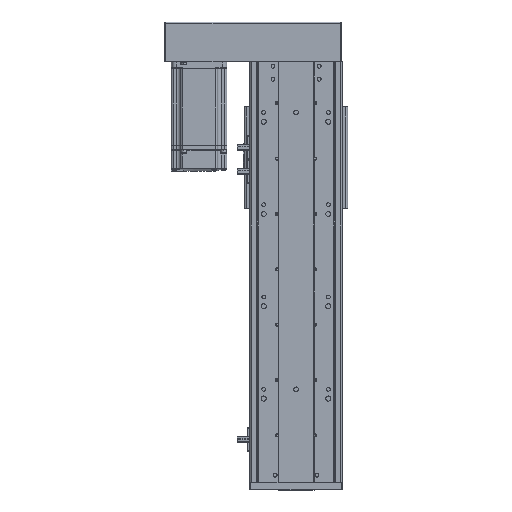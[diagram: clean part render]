
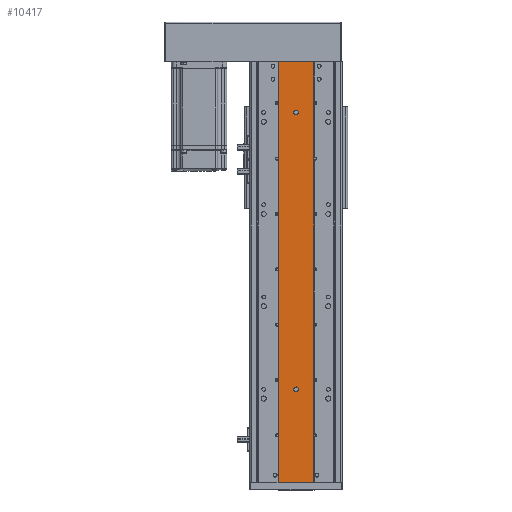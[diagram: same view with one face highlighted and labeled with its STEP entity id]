
A CAD part, top view. The second image highlights one B-rep face of the part: STEP entity #10417.
In plain terms, the highlighted planar face has unit normal (0, 0, 1).
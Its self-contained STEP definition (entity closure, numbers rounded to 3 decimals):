
#10417 = ADVANCED_FACE ( 'NONE', ( #44910, #44920, #44925 ), #12661, .F. ) ;
#11452 = VERTEX_POINT ( 'NONE', #13093 ) ;
#11509 = VERTEX_POINT ( 'NONE', #13150 ) ;
#11513 = VERTEX_POINT ( 'NONE', #13134 ) ;
#11514 = VERTEX_POINT ( 'NONE', #13155 ) ;
#11819 = VERTEX_POINT ( 'NONE', #46957 ) ;
#11859 = VERTEX_POINT ( 'NONE', #47028 ) ;
#11869 = VERTEX_POINT ( 'NONE', #46972 ) ;
#11882 = VERTEX_POINT ( 'NONE', #47012 ) ;
#12661 = PLANE ( 'NONE',  #28488 ) ;
#12663 = DIRECTION ( 'NONE',  ( -1., 0., 0. ) ) ;
#12665 = DIRECTION ( 'NONE',  ( 0., 0., -1. ) ) ;
#12673 = CARTESIAN_POINT ( 'NONE',  ( -10645.079, 456., -17040.86 ) ) ;
#13093 = CARTESIAN_POINT ( 'NONE',  ( -10628.579, 401., -17040.86 ) ) ;
#13134 = CARTESIAN_POINT ( 'NONE',  ( -10623.579, 401., -17040.86 ) ) ;
#13150 = CARTESIAN_POINT ( 'NONE',  ( -10628.579, 101., -17040.86 ) ) ;
#13155 = CARTESIAN_POINT ( 'NONE',  ( -10623.579, 101., -17040.86 ) ) ;
#15100 = DIRECTION ( 'NONE',  ( -1., 0., 0. ) ) ;
#15133 = DIRECTION ( 'NONE',  ( 0., 0., -1. ) ) ;
#15139 = CARTESIAN_POINT ( 'NONE',  ( -10626.079, 401., -17040.86 ) ) ;
#15159 = CARTESIAN_POINT ( 'NONE',  ( -10626.079, 101., -17040.86 ) ) ;
#15191 = DIRECTION ( 'NONE',  ( 0., 0., -1. ) ) ;
#15218 = DIRECTION ( 'NONE',  ( -1., 0., 0. ) ) ;
#15745 = EDGE_CURVE ( 'NONE', #11513, #11452, #35546, .T. ) ;
#15789 = EDGE_CURVE ( 'NONE', #11514, #11509, #35559, .T. ) ;
#16512 = EDGE_CURVE ( 'NONE', #11509, #11514, #17850, .T. ) ;
#16636 = EDGE_CURVE ( 'NONE', #11882, #11819, #18055, .T. ) ;
#16676 = EDGE_CURVE ( 'NONE', #11819, #11869, #18241, .T. ) ;
#16679 = EDGE_CURVE ( 'NONE', #11859, #11869, #18235, .T. ) ;
#16685 = EDGE_CURVE ( 'NONE', #11882, #11859, #18169, .T. ) ;
#16693 = EDGE_CURVE ( 'NONE', #11452, #11513, #18213, .T. ) ;
#17850 = CIRCLE ( 'NONE', #29509, 2.5 ) ;
#18055 = LINE ( 'NONE', #19830, #18100 ) ;
#18100 = VECTOR ( 'NONE', #19848, 1000. ) ;
#18169 = LINE ( 'NONE', #19898, #18184 ) ;
#18182 = VECTOR ( 'NONE', #19925, 1000. ) ;
#18184 = VECTOR ( 'NONE', #19889, 1000. ) ;
#18213 = CIRCLE ( 'NONE', #29504, 2.5 ) ;
#18235 = LINE ( 'NONE', #19921, #18182 ) ;
#18241 = LINE ( 'NONE', #19892, #18248 ) ;
#18248 = VECTOR ( 'NONE', #19897, 1000. ) ;
#19700 = CARTESIAN_POINT ( 'NONE',  ( -10626.079, 101., -17040.86 ) ) ;
#19704 = DIRECTION ( 'NONE',  ( -1., 0., 0. ) ) ;
#19716 = DIRECTION ( 'NONE',  ( 0., 0., -1. ) ) ;
#19830 = CARTESIAN_POINT ( 'NONE',  ( -10645.079, 456., -17040.86 ) ) ;
#19848 = DIRECTION ( 'NONE',  ( 0., -1., 0. ) ) ;
#19889 = DIRECTION ( 'NONE',  ( 1., 0., 0. ) ) ;
#19892 = CARTESIAN_POINT ( 'NONE',  ( -10645.079, 0., -17040.86 ) ) ;
#19895 = DIRECTION ( 'NONE',  ( -1., 0., 0. ) ) ;
#19897 = DIRECTION ( 'NONE',  ( 1., 0., 0. ) ) ;
#19898 = CARTESIAN_POINT ( 'NONE',  ( -10645.079, 456., -17040.86 ) ) ;
#19899 = CARTESIAN_POINT ( 'NONE',  ( -10626.079, 401., -17040.86 ) ) ;
#19917 = DIRECTION ( 'NONE',  ( 0., 0., -1. ) ) ;
#19921 = CARTESIAN_POINT ( 'NONE',  ( -10607.079, 456., -17040.86 ) ) ;
#19925 = DIRECTION ( 'NONE',  ( 0., -1., 0. ) ) ;
#28488 = AXIS2_PLACEMENT_3D ( 'NONE', #12673, #12665, #12663 ) ;
#29338 = AXIS2_PLACEMENT_3D ( 'NONE', #15159, #15191, #15218 ) ;
#29376 = AXIS2_PLACEMENT_3D ( 'NONE', #15139, #15133, #15100 ) ;
#29504 = AXIS2_PLACEMENT_3D ( 'NONE', #19899, #19917, #19895 ) ;
#29509 = AXIS2_PLACEMENT_3D ( 'NONE', #19700, #19716, #19704 ) ;
#34659 = EDGE_LOOP ( 'NONE', ( #41733, #41729, #41719, #41748 ) ) ;
#34673 = EDGE_LOOP ( 'NONE', ( #41755, #41785 ) ) ;
#34738 = EDGE_LOOP ( 'NONE', ( #41722, #41754 ) ) ;
#35546 = CIRCLE ( 'NONE', #29376, 2.5 ) ;
#35559 = CIRCLE ( 'NONE', #29338, 2.5 ) ;
#41719 = ORIENTED_EDGE ( 'NONE', *, *, #16685, .F. ) ;
#41722 = ORIENTED_EDGE ( 'NONE', *, *, #15789, .T. ) ;
#41729 = ORIENTED_EDGE ( 'NONE', *, *, #16679, .F. ) ;
#41733 = ORIENTED_EDGE ( 'NONE', *, *, #16676, .T. ) ;
#41748 = ORIENTED_EDGE ( 'NONE', *, *, #16636, .T. ) ;
#41754 = ORIENTED_EDGE ( 'NONE', *, *, #16512, .T. ) ;
#41755 = ORIENTED_EDGE ( 'NONE', *, *, #15745, .T. ) ;
#41785 = ORIENTED_EDGE ( 'NONE', *, *, #16693, .T. ) ;
#44910 = FACE_BOUND ( 'NONE', #34673, .T. ) ;
#44920 = FACE_BOUND ( 'NONE', #34738, .T. ) ;
#44925 = FACE_OUTER_BOUND ( 'NONE', #34659, .T. ) ;
#46957 = CARTESIAN_POINT ( 'NONE',  ( -10645.079, 0., -17040.86 ) ) ;
#46972 = CARTESIAN_POINT ( 'NONE',  ( -10607.079, 0., -17040.86 ) ) ;
#47012 = CARTESIAN_POINT ( 'NONE',  ( -10645.079, 456., -17040.86 ) ) ;
#47028 = CARTESIAN_POINT ( 'NONE',  ( -10607.079, 456., -17040.86 ) ) ;
